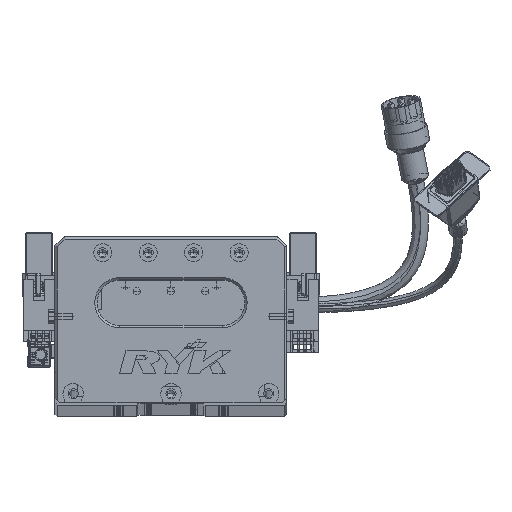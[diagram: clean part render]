
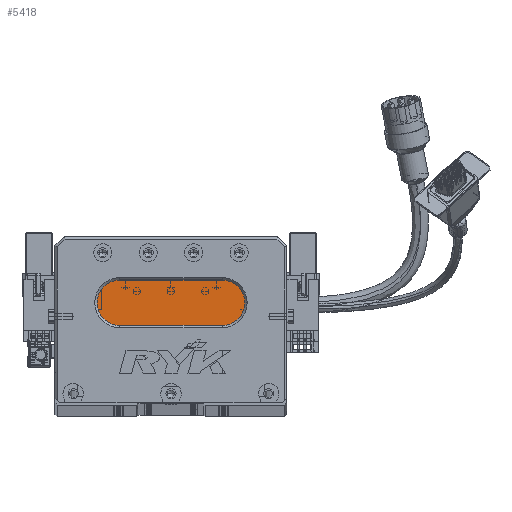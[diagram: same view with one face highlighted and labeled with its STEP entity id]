
A CAD part, top view. The second image highlights one B-rep face of the part: STEP entity #5418.
In plain terms, the highlighted planar face has unit normal (0, 0, 1) as drawn and (0, 0, -1) by its records, which use the part's own axes.
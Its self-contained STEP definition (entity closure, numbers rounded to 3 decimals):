
#1667 = CIRCLE ( 'NONE', #72387, 10. ) ;
#2506 = CARTESIAN_POINT ( 'NONE',  ( 73.5, 44., 13. ) ) ;
#5418 = ADVANCED_FACE ( 'NONE', ( #46939 ), #17124, .T. ) ;
#8732 = ORIENTED_EDGE ( 'NONE', *, *, #83474, .T. ) ;
#9824 = DIRECTION ( 'NONE',  ( -1., 0., 0. ) ) ;
#11344 = CARTESIAN_POINT ( 'NONE',  ( 73.5, 44., 13. ) ) ;
#14792 = CARTESIAN_POINT ( 'NONE',  ( 73.5, 34., 13. ) ) ;
#15155 = EDGE_CURVE ( 'NONE', #64414, #46151, #25893, .T. ) ;
#17124 = PLANE ( 'NONE',  #87295 ) ;
#17142 = AXIS2_PLACEMENT_3D ( 'NONE', #42228, #76615, #35242 ) ;
#21086 = ORIENTED_EDGE ( 'NONE', *, *, #64125, .T. ) ;
#24469 = ORIENTED_EDGE ( 'NONE', *, *, #82771, .T. ) ;
#25479 = CARTESIAN_POINT ( 'NONE',  ( 28.5, 34., 13. ) ) ;
#25893 = CIRCLE ( 'NONE', #17142, 10. ) ;
#30550 = VECTOR ( 'NONE', #73851, 1000. ) ;
#34368 = CARTESIAN_POINT ( 'NONE',  ( 73.5, 34., 13. ) ) ;
#35242 = DIRECTION ( 'NONE',  ( -1., 0., 0. ) ) ;
#35481 = LINE ( 'NONE', #34368, #40944 ) ;
#40944 = VECTOR ( 'NONE', #83348, 1000. ) ;
#42067 = CARTESIAN_POINT ( 'NONE',  ( 28.5, 54., 13. ) ) ;
#42228 = CARTESIAN_POINT ( 'NONE',  ( 28.5, 44., 13. ) ) ;
#43135 = CIRCLE ( 'NONE', #78802, 10. ) ;
#44003 = CARTESIAN_POINT ( 'NONE',  ( 28.5, 44., 13. ) ) ;
#44007 = DIRECTION ( 'NONE',  ( 0., 0., -1. ) ) ;
#45565 = EDGE_LOOP ( 'NONE', ( #8732, #21086, #24469, #53954, #57767 ) ) ;
#46090 = DIRECTION ( 'NONE',  ( -1., 0., 0. ) ) ;
#46151 = VERTEX_POINT ( 'NONE', #42067 ) ;
#46939 = FACE_OUTER_BOUND ( 'NONE', #45565, .T. ) ;
#47045 = EDGE_CURVE ( 'NONE', #46151, #75423, #55652, .T. ) ;
#51600 = DIRECTION ( 'NONE',  ( -1., 0., 0. ) ) ;
#53954 = ORIENTED_EDGE ( 'NONE', *, *, #15155, .T. ) ;
#55652 = LINE ( 'NONE', #72660, #30550 ) ;
#56885 = CARTESIAN_POINT ( 'NONE',  ( 18.5, 44., 13. ) ) ;
#57767 = ORIENTED_EDGE ( 'NONE', *, *, #47045, .T. ) ;
#64125 = EDGE_CURVE ( 'NONE', #74223, #64490, #35481, .T. ) ;
#64414 = VERTEX_POINT ( 'NONE', #56885 ) ;
#64490 = VERTEX_POINT ( 'NONE', #25479 ) ;
#66449 = CARTESIAN_POINT ( 'NONE',  ( 73.5, 54., 13. ) ) ;
#72387 = AXIS2_PLACEMENT_3D ( 'NONE', #2506, #86740, #9824 ) ;
#72660 = CARTESIAN_POINT ( 'NONE',  ( 73.5, 54., 13. ) ) ;
#73851 = DIRECTION ( 'NONE',  ( 1., 0., 0. ) ) ;
#74223 = VERTEX_POINT ( 'NONE', #14792 ) ;
#75423 = VERTEX_POINT ( 'NONE', #66449 ) ;
#76615 = DIRECTION ( 'NONE',  ( 0., 0., -1. ) ) ;
#78802 = AXIS2_PLACEMENT_3D ( 'NONE', #44003, #86553, #51600 ) ;
#82771 = EDGE_CURVE ( 'NONE', #64490, #64414, #43135, .T. ) ;
#83348 = DIRECTION ( 'NONE',  ( -1., 0., 0. ) ) ;
#83474 = EDGE_CURVE ( 'NONE', #75423, #74223, #1667, .T. ) ;
#86553 = DIRECTION ( 'NONE',  ( 0., 0., -1. ) ) ;
#86740 = DIRECTION ( 'NONE',  ( 0., 0., -1. ) ) ;
#87295 = AXIS2_PLACEMENT_3D ( 'NONE', #11344, #44007, #46090 ) ;
